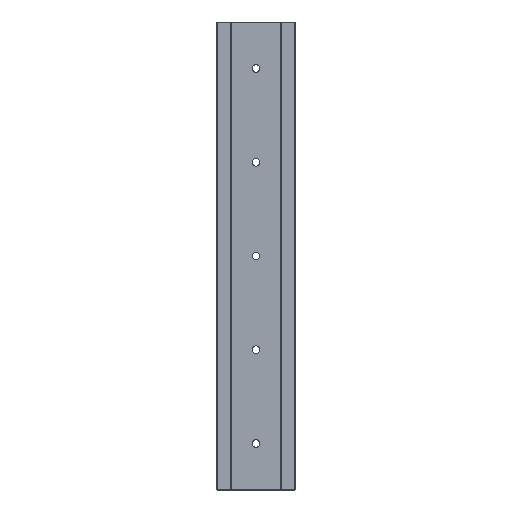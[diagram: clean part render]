
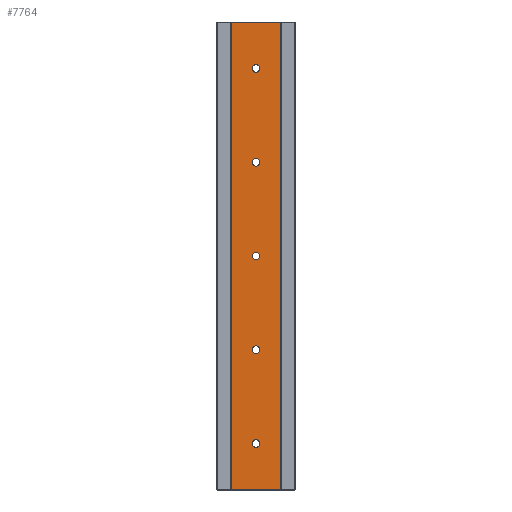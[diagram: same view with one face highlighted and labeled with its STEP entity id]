
A CAD part, left-side view. The second image highlights one B-rep face of the part: STEP entity #7764.
In plain terms, the highlighted planar face has unit normal (-1, 0, 0).
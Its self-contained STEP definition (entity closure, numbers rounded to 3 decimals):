
#167 = CARTESIAN_POINT ( 'NONE',  ( -8.227, 7.48, -92.462 ) ) ;
#172 = ORIENTED_EDGE ( 'NONE', *, *, #10029, .T. ) ;
#177 = ORIENTED_EDGE ( 'NONE', *, *, #8152, .T. ) ;
#208 = CIRCLE ( 'NONE', #741, 2.5 ) ;
#322 = VERTEX_POINT ( 'NONE', #15118 ) ;
#607 = AXIS2_PLACEMENT_3D ( 'NONE', #10050, #16302, #9710 ) ;
#741 = AXIS2_PLACEMENT_3D ( 'NONE', #12154, #12070, #16006 ) ;
#769 = CARTESIAN_POINT ( 'NONE',  ( -8.227, 23.18, 114.788 ) ) ;
#856 = DIRECTION ( 'NONE',  ( 0., 0., -1. ) ) ;
#1038 = DIRECTION ( 'NONE',  ( 0., 0., 1. ) ) ;
#1223 = CARTESIAN_POINT ( 'NONE',  ( -8.227, -8.22, -184.412 ) ) ;
#1278 = ORIENTED_EDGE ( 'NONE', *, *, #16516, .T. ) ;
#1343 = DIRECTION ( 'NONE',  ( 1., 0., 0. ) ) ;
#1510 = VERTEX_POINT ( 'NONE', #15120 ) ;
#1514 = CIRCLE ( 'NONE', #3708, 2.5 ) ;
#1819 = EDGE_LOOP ( 'NONE', ( #177, #1934 ) ) ;
#1934 = ORIENTED_EDGE ( 'NONE', *, *, #6260, .T. ) ;
#2077 = DIRECTION ( 'NONE',  ( 1., 0., 0. ) ) ;
#2230 = ORIENTED_EDGE ( 'NONE', *, *, #6671, .T. ) ;
#2258 = ORIENTED_EDGE ( 'NONE', *, *, #15498, .T. ) ;
#2345 = CARTESIAN_POINT ( 'NONE',  ( -8.227, -8.22, 114.788 ) ) ;
#2397 = DIRECTION ( 'NONE',  ( 0., 0., -1. ) ) ;
#2419 = AXIS2_PLACEMENT_3D ( 'NONE', #16850, #11786, #3935 ) ;
#2491 = VERTEX_POINT ( 'NONE', #15321 ) ;
#2558 = ORIENTED_EDGE ( 'NONE', *, *, #15098, .T. ) ;
#2567 = CARTESIAN_POINT ( 'NONE',  ( -8.227, 7.48, 85.038 ) ) ;
#2935 = LINE ( 'NONE', #5599, #13542 ) ;
#3169 = CARTESIAN_POINT ( 'NONE',  ( -8.227, 23.18, 114.488 ) ) ;
#3206 = CARTESIAN_POINT ( 'NONE',  ( -8.227, 7.48, -34.962 ) ) ;
#3253 = LINE ( 'NONE', #12319, #11598 ) ;
#3317 = VERTEX_POINT ( 'NONE', #11420 ) ;
#3392 = DIRECTION ( 'NONE',  ( 1., 0., 0. ) ) ;
#3436 = VERTEX_POINT ( 'NONE', #3902 ) ;
#3472 = DIRECTION ( 'NONE',  ( 0., 0., -1. ) ) ;
#3509 = CIRCLE ( 'NONE', #2419, 2.5 ) ;
#3618 = CIRCLE ( 'NONE', #607, 2.5 ) ;
#3708 = AXIS2_PLACEMENT_3D ( 'NONE', #16192, #2077, #5748 ) ;
#3718 = DIRECTION ( 'NONE',  ( 0., 0., -1. ) ) ;
#3778 = FACE_OUTER_BOUND ( 'NONE', #9243, .T. ) ;
#3804 = ORIENTED_EDGE ( 'NONE', *, *, #7967, .T. ) ;
#3870 = CARTESIAN_POINT ( 'NONE',  ( -8.227, 23.18, -184.412 ) ) ;
#3902 = CARTESIAN_POINT ( 'NONE',  ( -8.227, 7.48, 87.538 ) ) ;
#3935 = DIRECTION ( 'NONE',  ( 0., 0., -1. ) ) ;
#4034 = DIRECTION ( 'NONE',  ( 0., 1., 0. ) ) ;
#4150 = DIRECTION ( 'NONE',  ( 1., 0., 0. ) ) ;
#4318 = CARTESIAN_POINT ( 'NONE',  ( -8.227, 7.48, 25.038 ) ) ;
#4455 = CARTESIAN_POINT ( 'NONE',  ( -8.227, 7.48, -152.462 ) ) ;
#4656 = EDGE_LOOP ( 'NONE', ( #16855, #3804 ) ) ;
#4977 = DIRECTION ( 'NONE',  ( 1., 0., 0. ) ) ;
#5060 = FACE_BOUND ( 'NONE', #5970, .T. ) ;
#5066 = AXIS2_PLACEMENT_3D ( 'NONE', #5251, #15431, #3718 ) ;
#5138 = AXIS2_PLACEMENT_3D ( 'NONE', #8723, #5988, #856 ) ;
#5152 = AXIS2_PLACEMENT_3D ( 'NONE', #9074, #7801, #16705 ) ;
#5231 = FACE_BOUND ( 'NONE', #4656, .T. ) ;
#5251 = CARTESIAN_POINT ( 'NONE',  ( -8.227, 7.48, 85.038 ) ) ;
#5599 = CARTESIAN_POINT ( 'NONE',  ( -8.227, -8.52, -184.412 ) ) ;
#5681 = VERTEX_POINT ( 'NONE', #4455 ) ;
#5748 = DIRECTION ( 'NONE',  ( 0., 0., -1. ) ) ;
#5970 = EDGE_LOOP ( 'NONE', ( #9915, #7822 ) ) ;
#5988 = DIRECTION ( 'NONE',  ( 1., 0., 0. ) ) ;
#6240 = VERTEX_POINT ( 'NONE', #1223 ) ;
#6254 = PLANE ( 'NONE',  #11157 ) ;
#6260 = EDGE_CURVE ( 'Defeatured_0_80+Defeatured_0_92+Defeatured_0_93+Defeatured_0_93', #3436, #15854, #16555, .T. ) ;
#6423 = EDGE_CURVE ( 'Defeatured_0_80+Defeatured_0_149+Defeatured_0_148+Defeatured_0_148', #8652, #5681, #1514, .T. ) ;
#6508 = AXIS2_PLACEMENT_3D ( 'NONE', #2567, #1343, #2397 ) ;
#6671 = EDGE_CURVE ( 'Defeatured_0_80+Defeatured_0_148+Defeatured_0_149+Defeatured_0_149', #5681, #8652, #208, .T. ) ;
#7742 = EDGE_CURVE ( 'Defeatured_0_80+Defeatured_0_106+Defeatured_0_107+Defeatured_0_107', #10017, #3317, #8158, .T. ) ;
#7764 = ADVANCED_FACE ( 'Defeatured_0_80', ( #15578, #5231, #16789, #5060, #11464, #3778 ), #6254, .F. ) ;
#7801 = DIRECTION ( 'NONE',  ( 1., 0., 0. ) ) ;
#7822 = ORIENTED_EDGE ( 'NONE', *, *, #7742, .T. ) ;
#7967 = EDGE_CURVE ( 'Defeatured_0_80+Defeatured_0_134+Defeatured_0_135+Defeatured_0_135', #8279, #15215, #10321, .T. ) ;
#7977 = CIRCLE ( 'NONE', #16466, 2.5 ) ;
#8152 = EDGE_CURVE ( 'Defeatured_0_80+Defeatured_0_93+Defeatured_0_92+Defeatured_0_92', #15854, #3436, #12797, .T. ) ;
#8155 = EDGE_CURVE ( 'Defeatured_0_80+Defeatured_0_120+Defeatured_0_121+Defeatured_0_121', #2491, #1510, #3509, .T. ) ;
#8158 = CIRCLE ( 'NONE', #5152, 2.5 ) ;
#8159 = DIRECTION ( 'NONE',  ( 0., -1., 0. ) ) ;
#8279 = VERTEX_POINT ( 'NONE', #167 ) ;
#8652 = VERTEX_POINT ( 'NONE', #10823 ) ;
#8666 = LINE ( 'NONE', #2345, #12945 ) ;
#8723 = CARTESIAN_POINT ( 'NONE',  ( -8.227, 7.48, -94.962 ) ) ;
#9074 = CARTESIAN_POINT ( 'NONE',  ( -8.227, 7.48, 25.038 ) ) ;
#9171 = VERTEX_POINT ( 'NONE', #3169 ) ;
#9243 = EDGE_LOOP ( 'NONE', ( #1278, #2558, #2258, #11820 ) ) ;
#9710 = DIRECTION ( 'NONE',  ( 0., 0., -1. ) ) ;
#9842 = LINE ( 'NONE', #769, #15012 ) ;
#9915 = ORIENTED_EDGE ( 'NONE', *, *, #16536, .T. ) ;
#10017 = VERTEX_POINT ( 'NONE', #16304 ) ;
#10029 = EDGE_CURVE ( 'Defeatured_0_80+Defeatured_0_121+Defeatured_0_120+Defeatured_0_120', #1510, #2491, #7977, .T. ) ;
#10050 = CARTESIAN_POINT ( 'NONE',  ( -8.227, 7.48, -94.962 ) ) ;
#10162 = EDGE_LOOP ( 'NONE', ( #13326, #2230 ) ) ;
#10272 = CARTESIAN_POINT ( 'NONE',  ( -8.227, -8.52, 114.788 ) ) ;
#10321 = CIRCLE ( 'NONE', #5138, 2.5 ) ;
#10823 = CARTESIAN_POINT ( 'NONE',  ( -8.227, 7.48, -157.462 ) ) ;
#11157 = AXIS2_PLACEMENT_3D ( 'NONE', #10272, #4977, #4034 ) ;
#11420 = CARTESIAN_POINT ( 'NONE',  ( -8.227, 7.48, 22.538 ) ) ;
#11464 = FACE_BOUND ( 'NONE', #1819, .T. ) ;
#11598 = VECTOR ( 'NONE', #16352, 1000. ) ;
#11786 = DIRECTION ( 'NONE',  ( 1., 0., 0. ) ) ;
#11820 = ORIENTED_EDGE ( 'NONE', *, *, #13709, .T. ) ;
#12070 = DIRECTION ( 'NONE',  ( 1., 0., 0. ) ) ;
#12154 = CARTESIAN_POINT ( 'NONE',  ( -8.227, 7.48, -154.962 ) ) ;
#12237 = DIRECTION ( 'NONE',  ( 0., 0., -1. ) ) ;
#12319 = CARTESIAN_POINT ( 'NONE',  ( -8.227, -8.52, 114.488 ) ) ;
#12797 = CIRCLE ( 'NONE', #6508, 2.5 ) ;
#12945 = VECTOR ( 'NONE', #1038, 1000. ) ;
#12964 = EDGE_CURVE ( 'Defeatured_0_80+Defeatured_0_135+Defeatured_0_134+Defeatured_0_134', #15215, #8279, #3618, .T. ) ;
#13182 = CARTESIAN_POINT ( 'NONE',  ( -8.227, 7.48, -97.462 ) ) ;
#13326 = ORIENTED_EDGE ( 'NONE', *, *, #6423, .T. ) ;
#13542 = VECTOR ( 'NONE', #8159, 1000. ) ;
#13709 = EDGE_CURVE ( 'Defeatured_0_80+Defeatured_0_68+Defeatured_0_63+Defeatured_0_60', #9171, #15198, #9842, .T. ) ;
#14327 = DIRECTION ( 'NONE',  ( 0., 0., -1. ) ) ;
#15012 = VECTOR ( 'NONE', #12237, 1000. ) ;
#15098 = EDGE_CURVE ( 'Defeatured_0_80+Defeatured_0_57+Defeatured_0_60+Defeatured_0_63', #6240, #322, #8666, .T. ) ;
#15118 = CARTESIAN_POINT ( 'NONE',  ( -8.227, -8.22, 114.488 ) ) ;
#15120 = CARTESIAN_POINT ( 'NONE',  ( -8.227, 7.48, -37.462 ) ) ;
#15198 = VERTEX_POINT ( 'NONE', #3870 ) ;
#15215 = VERTEX_POINT ( 'NONE', #13182 ) ;
#15321 = CARTESIAN_POINT ( 'NONE',  ( -8.227, 7.48, -32.462 ) ) ;
#15431 = DIRECTION ( 'NONE',  ( 1., 0., 0. ) ) ;
#15453 = EDGE_LOOP ( 'NONE', ( #172, #16900 ) ) ;
#15498 = EDGE_CURVE ( 'Defeatured_0_80+Defeatured_0_63+Defeatured_0_57+Defeatured_0_68', #322, #9171, #3253, .T. ) ;
#15578 = FACE_BOUND ( 'NONE', #10162, .T. ) ;
#15732 = AXIS2_PLACEMENT_3D ( 'NONE', #4318, #4150, #14327 ) ;
#15854 = VERTEX_POINT ( 'NONE', #16249 ) ;
#16006 = DIRECTION ( 'NONE',  ( 0., 0., -1. ) ) ;
#16018 = CIRCLE ( 'NONE', #15732, 2.5 ) ;
#16192 = CARTESIAN_POINT ( 'NONE',  ( -8.227, 7.48, -154.962 ) ) ;
#16249 = CARTESIAN_POINT ( 'NONE',  ( -8.227, 7.48, 82.538 ) ) ;
#16302 = DIRECTION ( 'NONE',  ( 1., 0., 0. ) ) ;
#16304 = CARTESIAN_POINT ( 'NONE',  ( -8.227, 7.48, 27.538 ) ) ;
#16352 = DIRECTION ( 'NONE',  ( 0., 1., 0. ) ) ;
#16466 = AXIS2_PLACEMENT_3D ( 'NONE', #3206, #3392, #3472 ) ;
#16516 = EDGE_CURVE ( 'Defeatured_0_80+Defeatured_0_60+Defeatured_0_68+Defeatured_0_57', #15198, #6240, #2935, .T. ) ;
#16536 = EDGE_CURVE ( 'Defeatured_0_80+Defeatured_0_107+Defeatured_0_106+Defeatured_0_106', #3317, #10017, #16018, .T. ) ;
#16555 = CIRCLE ( 'NONE', #5066, 2.5 ) ;
#16705 = DIRECTION ( 'NONE',  ( 0., 0., -1. ) ) ;
#16789 = FACE_BOUND ( 'NONE', #15453, .T. ) ;
#16850 = CARTESIAN_POINT ( 'NONE',  ( -8.227, 7.48, -34.962 ) ) ;
#16855 = ORIENTED_EDGE ( 'NONE', *, *, #12964, .T. ) ;
#16900 = ORIENTED_EDGE ( 'NONE', *, *, #8155, .T. ) ;
